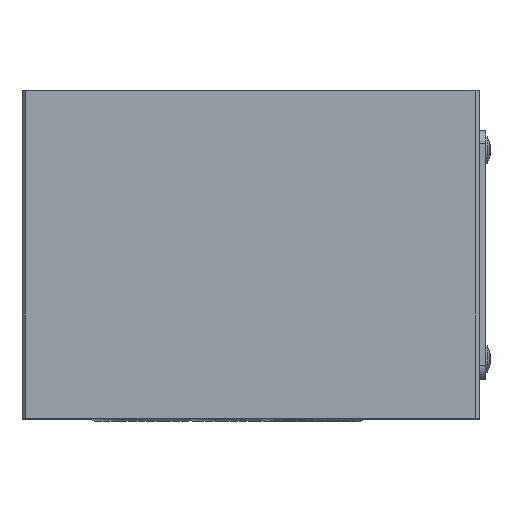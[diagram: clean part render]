
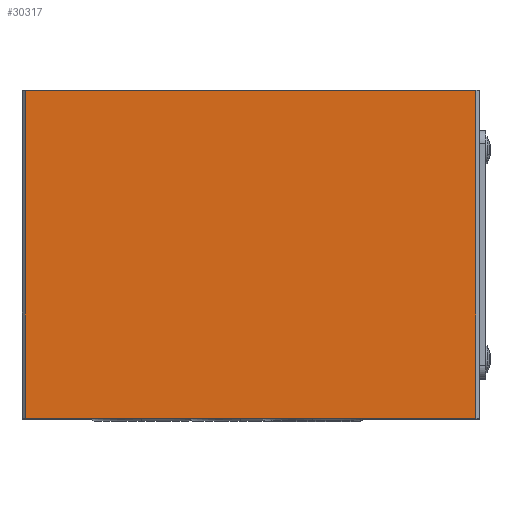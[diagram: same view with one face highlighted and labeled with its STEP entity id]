
A CAD part, top view. The second image highlights one B-rep face of the part: STEP entity #30317.
In plain terms, the highlighted planar face has unit normal (0, 0, 1).
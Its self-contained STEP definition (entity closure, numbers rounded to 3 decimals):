
#519 = EDGE_CURVE ( 'NONE', #20406, #24487, #32903, .T. ) ;
#1380 = CARTESIAN_POINT ( 'NONE',  ( -34.5, -25.1, 55. ) ) ;
#2708 = ORIENTED_EDGE ( 'NONE', *, *, #519, .T. ) ;
#4058 = VECTOR ( 'NONE', #47438, 1000. ) ;
#6857 = CARTESIAN_POINT ( 'NONE',  ( -34.5, 25.1, 55. ) ) ;
#6866 = PLANE ( 'NONE',  #18361 ) ;
#10467 = CARTESIAN_POINT ( 'NONE',  ( -34.5, -25.1, 55. ) ) ;
#14737 = DIRECTION ( 'NONE',  ( 0., -1., 0. ) ) ;
#17704 = CARTESIAN_POINT ( 'NONE',  ( 35., 25.1, 55. ) ) ;
#17996 = ORIENTED_EDGE ( 'NONE', *, *, #45159, .T. ) ;
#18361 = AXIS2_PLACEMENT_3D ( 'NONE', #44466, #24211, #40592 ) ;
#20356 = FACE_OUTER_BOUND ( 'NONE', #43105, .T. ) ;
#20406 = VERTEX_POINT ( 'NONE', #6857 ) ;
#20496 = VECTOR ( 'NONE', #30832, 1000. ) ;
#22105 = EDGE_CURVE ( 'NONE', #38236, #24487, #26476, .T. ) ;
#23033 = DIRECTION ( 'NONE',  ( 1., 0., 0. ) ) ;
#24211 = DIRECTION ( 'NONE',  ( 0., 0., -1. ) ) ;
#24487 = VERTEX_POINT ( 'NONE', #1380 ) ;
#26254 = CARTESIAN_POINT ( 'NONE',  ( 35., -25.1, 55. ) ) ;
#26476 = LINE ( 'NONE', #26254, #4058 ) ;
#28161 = CARTESIAN_POINT ( 'NONE',  ( 34.5, -25.1, 55. ) ) ;
#28208 = EDGE_CURVE ( 'NONE', #20406, #40956, #37803, .T. ) ;
#30317 = ADVANCED_FACE ( 'NONE', ( #20356 ), #6866, .F. ) ;
#30832 = DIRECTION ( 'NONE',  ( 0., 1., 0. ) ) ;
#31580 = VECTOR ( 'NONE', #14737, 1000. ) ;
#32903 = LINE ( 'NONE', #10467, #31580 ) ;
#37803 = LINE ( 'NONE', #17704, #49647 ) ;
#38236 = VERTEX_POINT ( 'NONE', #28161 ) ;
#40592 = DIRECTION ( 'NONE',  ( -1., 0., 0. ) ) ;
#40956 = VERTEX_POINT ( 'NONE', #42709 ) ;
#41895 = ORIENTED_EDGE ( 'NONE', *, *, #28208, .F. ) ;
#42709 = CARTESIAN_POINT ( 'NONE',  ( 34.5, 25.1, 55. ) ) ;
#42935 = ORIENTED_EDGE ( 'NONE', *, *, #22105, .F. ) ;
#43105 = EDGE_LOOP ( 'NONE', ( #42935, #17996, #41895, #2708 ) ) ;
#44039 = CARTESIAN_POINT ( 'NONE',  ( 34.5, -25.1, 55. ) ) ;
#44466 = CARTESIAN_POINT ( 'NONE',  ( 35., -25.1, 55. ) ) ;
#45159 = EDGE_CURVE ( 'NONE', #38236, #40956, #50901, .T. ) ;
#47438 = DIRECTION ( 'NONE',  ( -1., 0., 0. ) ) ;
#49647 = VECTOR ( 'NONE', #23033, 1000. ) ;
#50901 = LINE ( 'NONE', #44039, #20496 ) ;
